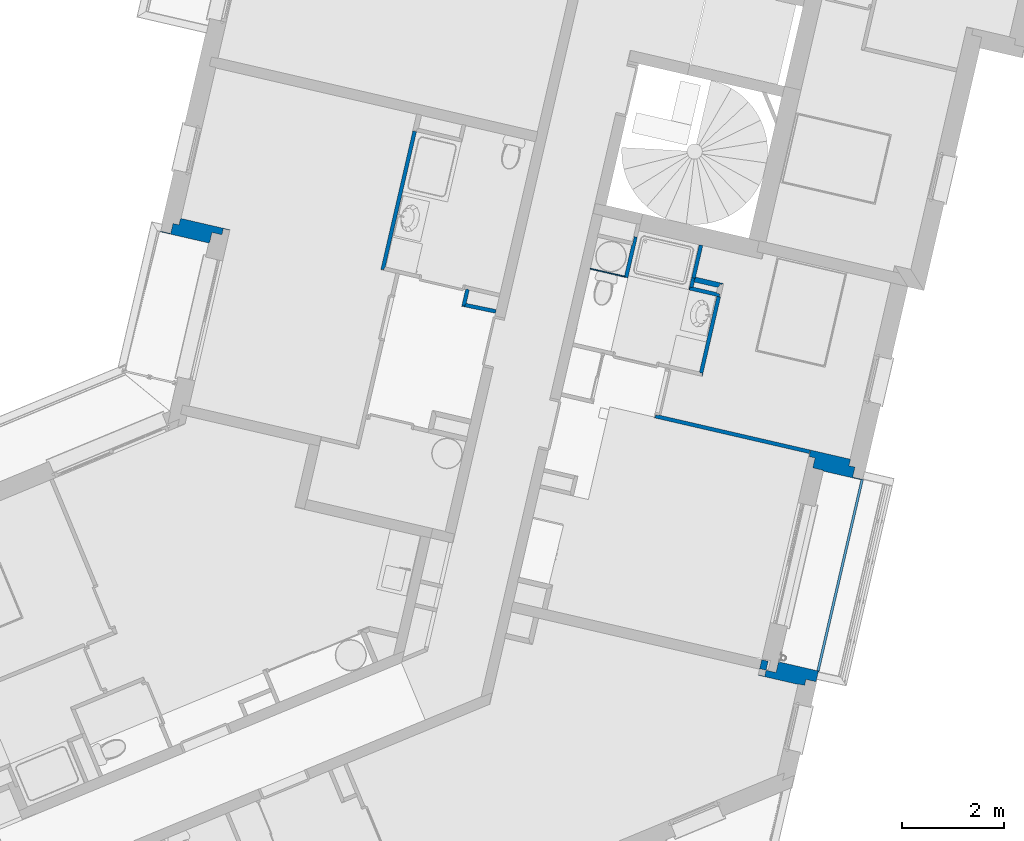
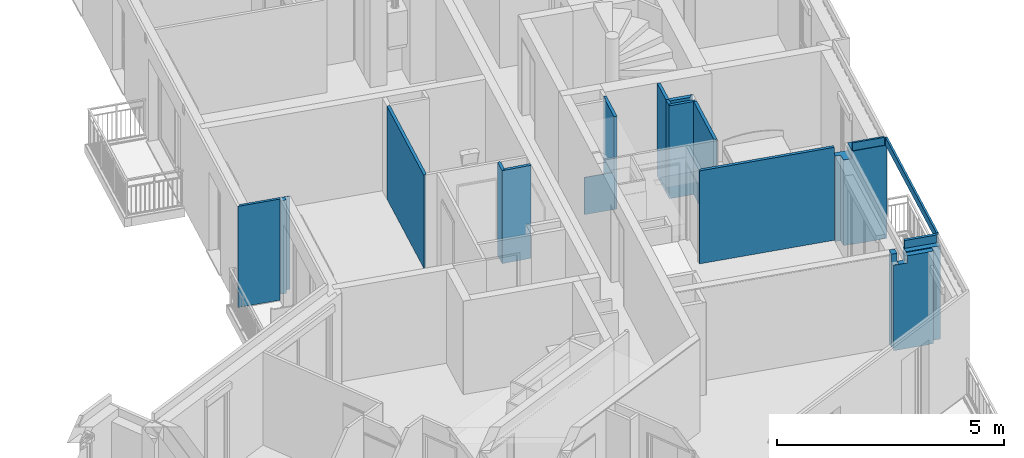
# One storey, part 41 of 91: 16 walls.
"""IFC2X3 building model written with IfcOpenShell, lengths in metres."""

from ifc_helpers import new_model, entity, si_unit, converted_unit, derived_unit, money_unit, direction, frame, origin_with_axes, place, context, subcontext, project, spatial, faceted_brep, material, material_list, type_object, element, save


model = new_model("IFC2X3")

# Units and contexts
model_context = context("Model", 3, precision=1e-05, world=origin_with_axes(), true_north=direction((0.0, 1.0)))
body_context = subcontext(model_context, "Body", "Model", "MODEL_VIEW")
ifc_project = project(units=[si_unit("LENGTHUNIT", "METRE"), si_unit("AREAUNIT", "SQUARE_METRE"), si_unit("VOLUMEUNIT", "CUBIC_METRE"), converted_unit("PLANEANGLEUNIT", "DEGREE", entity("IfcPlaneAngleMeasure", 0.0174532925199), si_unit("PLANEANGLEUNIT", "RADIAN"), dimensions=[0, 0, 0, 0, 0, 0, 0]), si_unit("SOLIDANGLEUNIT", "STERADIAN"), money_unit("EUR"), converted_unit("TIMEUNIT", "Year", entity("IfcTimeMeasure", 31556926.0), si_unit("TIMEUNIT", "SECOND"), dimensions=[0, 0, 1, 0, 0, 0, 0]), si_unit("MASSUNIT", "GRAM", prefix="KILO"), si_unit("THERMODYNAMICTEMPERATUREUNIT", "DEGREE_CELSIUS"), si_unit("LUMINOUSINTENSITYUNIT", "LUMEN"), si_unit("ENERGYUNIT", "JOULE", prefix="MEGA"), derived_unit("THERMALCONDUCTANCEUNIT", [(si_unit("POWERUNIT", "WATT"), 1), (si_unit("LENGTHUNIT", "METRE"), -1), (si_unit("THERMODYNAMICTEMPERATUREUNIT", "KELVIN"), -1)]), derived_unit("SPECIFICHEATCAPACITYUNIT", [(si_unit("ENERGYUNIT", "JOULE"), 1), (si_unit("MASSUNIT", "GRAM", prefix="KILO"), -1), (si_unit("THERMODYNAMICTEMPERATUREUNIT", "KELVIN"), -1)]), derived_unit("MASSDENSITYUNIT", [(si_unit("MASSUNIT", "GRAM", prefix="KILO"), 1), (si_unit("VOLUMEUNIT", "CUBIC_METRE"), -1)])], contexts=[model_context])

# Site, building, storey
site_placement = place(None, origin_with_axes())
site = spatial("IfcSite", under=ifc_project, at=site_placement, Name="Site", CompositionType="ELEMENT")
building_placement = place(site_placement, origin_with_axes())
building = spatial("IfcBuilding", under=site, at=building_placement, Name="Bâtiment", CompositionType="ELEMENT")
storey_placement = place(building_placement, frame((0.0, 0.0, 5.44), z_axis=(0.0, 0.0, 1.0), x_axis=(1.0, 0.0, 0.0)))
storey = spatial("IfcBuildingStorey", under=building, at=storey_placement, Name="R+2", CompositionType="ELEMENT", Elevation=5.44)

# Walls
ifc_material_1 = material(Name="Finition ext - Crépis")
ifc_material_2 = material(Name="Béton cellulaire")
ifc_material_3 = material(Name="Mortier")
ifc_material_4 = material(Name="Isolation - Polystyrène expansé")
ifc_material_5 = material(Name="Bloc ELITHERM")
ifc_material_6 = material(Name="Isolation - Polystyrène extrudé")
ifc_material_7 = material(Name="Finition int - Plaque de plâtre")
ifc_material_list_1 = material_list([ifc_material_1, ifc_material_2, ifc_material_3, ifc_material_4, ifc_material_5, ifc_material_6, ifc_material_7])
wall_type_1 = type_object("IfcWallType", Name="Mur ALKERN + planelle 21 345 x 2720", PredefinedType="USERDEFINED")
wall_1_placement = place(storey_placement, frame((-7.87725590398, -17.655550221, 0.0), z_axis=(0.0, 0.0, 1.0), x_axis=(0.974387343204, -0.224876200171, 0.0)))
element("IfcWall", 1, at=wall_1_placement, inside=storey, type_object=wall_type_1, material=ifc_material_list_1, Name="Mue bloc ALKERN isolé", ObjectType="SOLIDWALL", context=body_context, shape_type="Brep", body=[
    faceted_brep([(0.0, -1.97838829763e-08, 2.51000000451), (0.735096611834, -3.25334781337e-09, 2.50999999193), (0.735096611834, -3.62492258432e-09, 2.7199999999), (0.751999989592, -3.25334781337e-09, 2.72), (0.751999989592, -2.19820606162e-09, 2.51), (0.799999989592, -2.02848937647e-09, 2.51), (0.799999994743, 0.0, 0.0), (-1.75933374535e-08, 0.0, 0.0), (0.0, -0.015, 2.51000000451), (0.735096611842, -0.015, 2.50999999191), (0.735096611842, -0.015, 2.7199999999), (0.799999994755, -0.0149999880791, 2.72), (0.799999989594, -0.00238866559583, 2.72), (0.751999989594, -0.00238866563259, 2.72), (0.751999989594, -0.00238866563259, 2.51), (0.799999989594, -0.00238866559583, 2.51), (0.799999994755, -0.0149999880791, 0.0), (-1.76522387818e-08, -0.0149999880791, 0.0)], [[[0, 1, 2, 3, 4, 5, 6, 7]], [[1, 0, 8, 9]], [[10, 2, 1, 9]], [[2, 10, 11, 12, 13, 3]], [[4, 3, 13, 14]], [[14, 15, 5, 4]], [[15, 12, 11, 16, 6, 5]], [[16, 17, 7, 6]], [[8, 0, 7, 17]], [[9, 8, 17, 16, 11, 10]], [[14, 13, 12, 15]]]),
    faceted_brep([(0.785000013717, -0.0629999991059, 2.72), (0.785000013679, -0.015, 2.72), (0.0, -0.015, 2.71999999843), (0.0, -0.0629999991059, 2.71999999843), (0.785000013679, -0.015, 2.51999999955), (0.785000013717, -0.0629999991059, 2.51999999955), (0.0, -0.015, 2.51999999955), (0.0, -0.0629999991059, 2.51999999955)], [[[0, 1, 2, 3]], [[4, 1, 0, 5]], [[1, 4, 6, 2]], [[7, 3, 2, 6]], [[5, 0, 3, 7]], [[4, 5, 7, 6]]]),
    faceted_brep([(0.785000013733, -0.0830000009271, 2.51999999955), (0.785000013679, -0.015, 2.51999999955), (0.0, -0.015, 2.52), (0.0, -0.0830000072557, 2.51999998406), (0.785000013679, -0.015, 2.50999999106), (0.785000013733, -0.0830000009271, 2.50999999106), (0.0, -0.015, 2.51000000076), (0.0, -0.0830000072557, 2.51000000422)], [[[0, 1, 2, 3]], [[4, 1, 0, 5]], [[1, 4, 6, 2]], [[7, 3, 2, 6]], [[5, 0, 3, 7]], [[4, 5, 7, 6]]]),
    faceted_brep([(0.0, -0.0830000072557, 2.71999999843), (0.737000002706, -0.0830000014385, 2.72), (0.73700000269, -0.0630000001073, 2.72), (0.0, -0.0630000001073, 2.71999999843), (0.0, -0.0830000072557, 2.51999998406), (0.737000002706, -0.0830000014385, 2.51999999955), (0.73700000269, -0.0630000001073, 2.51999999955), (0.0, -0.0630000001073, 2.51999999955)], [[[0, 1, 2, 3]], [[4, 5, 1, 0]], [[5, 6, 2, 1]], [[3, 2, 6, 7]], [[7, 4, 0, 3]], [[7, 6, 5, 4]]]),
    faceted_brep([(0.785000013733, -0.0829999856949, 2.50999999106), (0.785000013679, -0.015, 2.50999999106), (-0.0149999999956, -0.015, 2.51000000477), (-0.0149999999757, -0.0829999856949, 2.51000000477), (0.785000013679, -0.015, 0.0), (0.785000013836, -0.214999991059, 2.50999999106), (0.785000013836, -0.214999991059, 0.0), (-0.0149999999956, -0.015, 0.0), (-0.0149999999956, -0.015, 2.3), (-0.0149999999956, -0.015, 2.30999999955), (-0.0149999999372, -0.214999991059, 2.30999999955), (-0.0149999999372, -0.214999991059, 2.51000000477), (-0.0149999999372, -0.214999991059, 2.3), (-0.0149999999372, -0.214999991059, 0.0)], [[[0, 1, 2, 3]], [[4, 1, 0, 5, 6]], [[1, 4, 7, 8, 9, 2]], [[3, 2, 9, 10, 11]], [[5, 0, 3, 11]], [[6, 5, 11, 10, 12, 13]], [[4, 6, 13, 7]], [[12, 8, 7, 13]], [[10, 9, 8, 12]]]),
    faceted_brep([(-0.0149999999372, -0.215000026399, 2.49), (0.585000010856, -0.215000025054, 2.49), (0.585000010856, -0.215000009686, 0.0), (-0.215000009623, -0.215000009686, 0.0), (-0.215000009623, -0.215000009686, 2.3), (-0.0829999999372, -0.215000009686, 2.3), (-0.0149999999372, -0.215000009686, 2.3), (0.58500001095, -0.335000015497, 2.49), (-0.0149999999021, -0.335000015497, 2.49), (0.58500001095, -0.335000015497, 0.0), (-0.215000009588, -0.335000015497, 0.0), (-0.215000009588, -0.335000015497, 2.3), (-0.0829999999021, -0.335000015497, 2.3), (-0.0149999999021, -0.335000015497, 2.3)], [[[0, 1, 2, 3, 4, 5, 6]], [[7, 1, 0, 8]], [[1, 7, 9, 2]], [[3, 2, 9, 10]], [[10, 11, 4, 3]], [[11, 12, 5, 4]], [[13, 6, 5, 12]], [[8, 0, 6, 13]], [[7, 8, 13, 12, 11, 10, 9]]]),
    faceted_brep([(-0.0149999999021, -0.335000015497, 2.49), (0.464999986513, -0.335000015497, 2.49), (0.464999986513, -0.335000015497, 0.0), (-0.335000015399, -0.335000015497, 0.0), (-0.335000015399, -0.335000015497, 2.3), (-0.0829999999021, -0.335000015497, 2.3), (-0.0149999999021, -0.335000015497, 2.3), (0.46499998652, -0.344999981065, 2.49), (-0.0149999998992, -0.344999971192, 2.49), (0.46499998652, -0.34499998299, 0.0), (-0.335000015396, -0.344999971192, 0.0), (-0.335000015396, -0.344999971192, 2.3), (-0.0829999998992, -0.344999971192, 2.3), (-0.0149999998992, -0.344999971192, 2.3)], [[[0, 1, 2, 3, 4, 5, 6]], [[7, 1, 0, 8]], [[1, 7, 9, 2]], [[3, 2, 9, 10]], [[10, 11, 4, 3]], [[11, 12, 5, 4]], [[13, 6, 5, 12]], [[8, 0, 6, 13]], [[7, 8, 13, 12, 11, 10, 9]]]),
])
ifc_material_list_2 = material_list([ifc_material_1, ifc_material_2, ifc_material_3, ifc_material_5, ifc_material_6, ifc_material_7])
wall_2_placement = place(storey_placement, frame((-6.23759285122, -14.1084121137, 0.0), z_axis=(0.0, 0.0, 1.0), x_axis=(-0.974387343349, 0.224876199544, 0.0)))
element("IfcWall", 2, at=wall_2_placement, inside=storey, type_object=wall_type_1, material=ifc_material_list_2, Name="Mue bloc ALKERN isolé", ObjectType="SOLIDWALL", context=body_context, shape_type="Brep", body=[
    faceted_brep([(0.79999998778, -0.0149999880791, 2.51), (0.0649033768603, -0.0149999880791, 2.51), (0.0649033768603, -0.0149999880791, 2.72), (0.0480000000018, -0.0149999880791, 2.71999999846), (0.0480000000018, -0.0149999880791, 2.51000000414), (0.0149999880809, -0.0149999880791, 2.51000000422), (0.0149999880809, -0.0149999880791, 0.0), (0.814999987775, -0.0149999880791, 0.0), (0.814999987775, -0.0149999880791, 2.51000000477), (0.79999998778, -1.97838829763e-08, 2.51), (0.064903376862, 0.0, 2.51), (0.064903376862, -3.62492080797e-09, 2.72), (0.048, -3.25334958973e-09, 2.71999999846), (0.048, 0.0, 2.51000000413), (0.0149999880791, 0.0, 2.51000000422), (0.0149999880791, 0.0, 0.0), (0.81499998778, 0.0, 0.0), (0.81499998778, -1.97838847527e-08, 2.51000000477)], [[[0, 1, 2, 3, 4, 5, 6, 7, 8]], [[1, 0, 9, 10]], [[11, 2, 1, 10]], [[2, 11, 12, 3]], [[4, 3, 12, 13]], [[13, 14, 5, 4]], [[6, 5, 14, 15]], [[15, 16, 7, 6]], [[16, 17, 8, 7]], [[9, 0, 8, 17]], [[10, 9, 17, 16, 15, 14, 13, 12, 11]]]),
    faceted_brep([(0.0629999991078, -0.015, 2.72), (0.0629999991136, -0.0629999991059, 2.72), (0.79999998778, -0.0629999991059, 2.71999999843), (0.79999998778, -0.015, 2.71999999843), (0.0629999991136, -0.0629999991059, 2.51999999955), (0.0629999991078, -0.015, 2.51999999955), (0.79999998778, -0.0629999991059, 2.51999999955), (0.79999998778, -0.015, 2.51999999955)], [[[0, 1, 2, 3]], [[4, 1, 0, 5]], [[1, 4, 6, 2]], [[7, 3, 2, 6]], [[5, 0, 3, 7]], [[4, 5, 7, 6]]]),
    faceted_brep([(0.0830000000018, -0.015, 2.52), (0.0830000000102, -0.0830000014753, 2.52), (0.79999998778, -0.0830000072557, 2.51999998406), (0.79999998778, -0.015, 2.52), (0.0830000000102, -0.0830000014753, 2.51), (0.0830000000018, -0.015, 2.51), (0.79999998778, -0.0830000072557, 2.51000000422), (0.79999998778, -0.015, 2.51000000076)], [[[0, 1, 2, 3]], [[4, 1, 0, 5]], [[1, 4, 6, 2]], [[7, 3, 2, 6]], [[5, 0, 3, 7]], [[4, 5, 7, 6]]]),
    faceted_brep([(0.814999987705, -0.214999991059, 2.30999999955), (0.814999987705, -0.214999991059, 2.51000000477), (0.214999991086, -0.214999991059, 2.50999999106), (0.214999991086, -0.214999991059, 0.0), (1.01499999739, -0.214999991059, 0.0), (1.01499999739, -0.214999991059, 2.3), (0.882999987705, -0.214999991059, 2.3), (0.814999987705, -0.214999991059, 2.3), (0.814999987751, -0.0829999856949, 2.51000000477), (0.814999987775, -0.015, 2.30999999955), (0.814999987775, -0.015, 2.51000000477), (0.214999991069, -0.0829999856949, 2.50999999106), (0.214999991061, -0.015, 2.50999999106), (0.214999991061, -0.015, 0.0), (1.01499999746, -0.015, 0.0), (1.01499999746, -0.015, 2.3), (0.882999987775, -0.015, 2.3), (0.814999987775, -0.015, 2.3)], [[[0, 1, 2, 3, 4, 5, 6, 7]], [[8, 1, 0, 9, 10]], [[1, 8, 11, 2]], [[3, 2, 11, 12, 13]], [[14, 4, 3, 13]], [[15, 5, 4, 14]], [[16, 6, 5, 15]], [[7, 6, 16, 17]], [[9, 0, 7, 17]], [[10, 9, 17, 16, 15, 14, 13, 12]], [[8, 10, 12, 11]]]),
    faceted_brep([(0.814999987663, -0.335000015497, 2.3), (0.814999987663, -0.335000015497, 2.51000000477), (0.335000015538, -0.335000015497, 2.51), (0.335000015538, -0.335000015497, 0.0), (1.13500000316, -0.335000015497, 0.0), (1.13500000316, -0.335000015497, 2.3), (0.882999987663, -0.335000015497, 2.3), (0.814999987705, -0.215000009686, 2.3), (0.814999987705, -0.215000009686, 2.51000000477), (0.335000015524, -0.215000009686, 2.51), (0.335000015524, -0.215000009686, 0.0), (1.1350000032, -0.215000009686, 0.0), (1.1350000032, -0.215000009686, 2.3), (0.882999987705, -0.215000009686, 2.3)], [[[0, 1, 2, 3, 4, 5, 6]], [[7, 8, 1, 0]], [[2, 1, 8, 9]], [[10, 3, 2, 9]], [[10, 11, 4, 3]], [[11, 12, 5, 4]], [[12, 13, 6, 5]], [[7, 0, 6, 13]], [[9, 8, 7, 13, 12, 11, 10]]]),
    faceted_brep([(0.814999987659, -0.344999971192, 2.3), (0.814999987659, -0.344999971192, 2.51000000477), (0.344999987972, -0.34499998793, 2.51), (0.344999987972, -0.34499998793, 0.0), (1.14499995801, -0.34499998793, 0.0), (1.14499995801, -0.34499998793, 2.30000001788), (0.882999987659, -0.344999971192, 2.3), (0.814999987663, -0.335000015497, 2.3), (0.814999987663, -0.335000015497, 2.51000000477), (0.344999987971, -0.335000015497, 2.51), (0.344999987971, -0.335000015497, 0.0), (1.14499995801, -0.335000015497, 0.0), (1.14499995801, -0.335000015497, 2.30000001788), (0.882999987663, -0.335000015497, 2.3)], [[[0, 1, 2, 3, 4, 5, 6]], [[7, 8, 1, 0]], [[2, 1, 8, 9]], [[10, 3, 2, 9]], [[4, 3, 10, 11]], [[11, 12, 5, 4]], [[12, 13, 6, 5]], [[7, 0, 6, 13]], [[9, 8, 7, 13, 12, 11, 10]]]),
])
wall_3_placement = place(storey_placement, frame((-19.0200334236, -9.47366806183, 0.0), z_axis=(0.0, 0.0, 1.0), x_axis=(-0.974387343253, 0.22487619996, 0.0)))
element("IfcWall", 3, at=wall_3_placement, inside=storey, type_object=wall_type_1, material=ifc_material_list_2, Name="Mue bloc ALKERN isolé", ObjectType="SOLIDWALL", context=body_context, shape_type="Brep", body=[
    faceted_brep([(0.965018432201, -0.0149999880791, 2.72), (0.0, -0.0149999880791, 2.72), (0.0, -0.0149999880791, 0.0), (0.965018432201, -0.0149999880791, 0.0), (0.9650184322, 0.0, 2.72), (0.0, 0.0, 2.72), (0.0, 0.0, 0.0), (0.9650184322, 0.0, 0.0)], [[[0, 1, 2, 3]], [[1, 0, 4, 5]], [[2, 1, 5, 6]], [[6, 7, 3, 2]], [[7, 4, 0, 3]], [[5, 4, 7, 6]]]),
    faceted_brep([(0.917018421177, -0.0629999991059, 2.51999999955), (0.917018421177, -0.0629999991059, 2.72), (-0.0150000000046, -0.0629999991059, 2.72), (-0.0150000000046, -0.0629999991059, 2.51999999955), (0.917018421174, -0.015, 2.72), (0.917018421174, -0.015, 2.51999999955), (-0.0150000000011, -0.015, 2.72), (-0.0150000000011, -0.015, 2.51999999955)], [[[0, 1, 2, 3]], [[4, 1, 0, 5]], [[1, 4, 6, 2]], [[3, 2, 6, 7]], [[5, 0, 3, 7]], [[4, 5, 7, 6]]]),
    faceted_brep([(0.897018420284, -0.083, 2.51), (0.897018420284, -0.083, 2.52), (-0.015000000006, -0.083, 2.52), (-0.015000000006, -0.083, 2.51), (0.89701842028, -0.015, 2.52), (0.89701842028, -0.015, 2.51), (-0.0150000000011, -0.015, 2.52), (-0.0150000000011, -0.015, 2.51)], [[[0, 1, 2, 3]], [[4, 1, 0, 5]], [[1, 4, 6, 2]], [[3, 2, 6, 7]], [[5, 0, 3, 7]], [[4, 5, 7, 6]]]),
    faceted_brep([(0.765018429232, -0.214999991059, 0.0), (0.765018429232, -0.214999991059, 2.50999999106), (-0.0150000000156, -0.214999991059, 2.50999999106), (-0.0150000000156, -0.214999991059, 0.0), (0.765018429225, -0.0829999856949, 2.50999999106), (0.765018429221, -0.015, 0.0), (0.765018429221, -0.015, 2.50999999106), (-0.015000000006, -0.0829999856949, 2.50999999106), (-0.0150000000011, -0.015, 2.50999999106), (-0.0150000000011, -0.015, 0.0)], [[[0, 1, 2, 3]], [[4, 1, 0, 5, 6]], [[1, 4, 7, 2]], [[3, 2, 7, 8, 9]], [[5, 0, 3, 9]], [[6, 5, 9, 8]], [[4, 6, 8, 7]]]),
    faceted_brep([(-0.21500000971, -0.335000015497, 0.0), (0.645018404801, -0.335000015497, 0.0), (0.645018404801, -0.335000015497, 2.51), (-0.21500000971, -0.335000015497, 2.51), (-0.215000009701, -0.215000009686, 0.0), (0.645018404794, -0.215000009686, 0.0), (0.645018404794, -0.215000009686, 2.51), (-0.215000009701, -0.215000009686, 2.51)], [[[0, 1, 2, 3]], [[4, 5, 1, 0]], [[5, 6, 2, 1]], [[3, 2, 6, 7]], [[4, 0, 3, 7]], [[7, 6, 5, 4]]]),
    faceted_brep([(-0.335000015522, -0.34499998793, 0.0), (0.635018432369, -0.34499998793, 0.0), (0.635018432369, -0.34499998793, 2.51), (-0.335000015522, -0.34499998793, 2.51), (-0.335000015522, -0.335000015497, 0.0), (0.635018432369, -0.335000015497, 0.0), (0.635018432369, -0.335000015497, 2.51), (-0.335000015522, -0.335000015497, 2.51)], [[[0, 1, 2, 3]], [[4, 5, 1, 0]], [[5, 6, 2, 1]], [[3, 2, 6, 7]], [[4, 0, 3, 7]], [[7, 6, 5, 4]]]),
])
ifc_material_8 = material(Name="Isolation - Laine de roche")
ifc_material_list_3 = material_list([ifc_material_7, ifc_material_8, ifc_material_7])
wall_type_2 = type_object("IfcWallType", Name="3 - Cloison 72mm Placostil 74", PredefinedType="USERDEFINED")
wall_4_placement = place(storey_placement, frame((-10.6895078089, -9.53207011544, 0.0), z_axis=(0.0, 0.0, 1.0), x_axis=(-0.224876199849, -0.974387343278, 0.0)))
element("IfcWall", 4, at=wall_4_placement, inside=storey, type_object=wall_type_2, material=ifc_material_list_3, Name="Cloison Placostil 72/48", ObjectType="PARTITIONING", context=body_context, shape_type="Brep", body=[
    faceted_brep([(-0.174, 0.0, 2.5), (-0.174, -0.013, 2.5), (0.63958884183, -0.0130000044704, 2.5), (0.63958884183, 4.47035120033e-09, 2.5), (-0.174, 0.0, 0.0), (-0.174, -0.013, 0.0), (0.63958884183, -0.013, 0.0), (0.63958884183, 0.0, 0.0), (0.63958884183, 4.47035120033e-09, 1.0)], [[[0, 1, 2, 3]], [[0, 4, 5, 1]], [[5, 6, 2, 1]], [[6, 7, 8, 3, 2]], [[4, 0, 3, 8, 7]], [[5, 4, 7, 6]]]),
    faceted_brep([(-0.174, -0.013, 2.5), (-0.174, -0.061, 2.5), (0.63958884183, -0.0609999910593, 2.5), (0.63958884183, -0.0130000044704, 2.5), (-0.174, -0.013, 0.0), (-0.174, -0.061, 0.0), (0.63958884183, -0.061, 0.0), (0.63958884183, -0.013, 0.0)], [[[0, 1, 2, 3]], [[0, 4, 5, 1]], [[5, 6, 2, 1]], [[6, 7, 3, 2]], [[4, 0, 3, 7]], [[5, 4, 7, 6]]]),
    faceted_brep([(0.63958884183, -0.0609999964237, 1.0), (0.61958884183, -0.0609999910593, 1.0), (0.61958884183, -0.061, 0.0), (0.0, -0.061, 0.0), (0.0, -0.0609999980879, 2.5), (0.63958884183, -0.0609999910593, 2.5), (0.61958884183, -0.074, 1.0), (0.63958884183, -0.074, 1.0), (0.61958884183, -0.074, 0.0), (0.0, -0.074, 0.0), (0.0, -0.074, 2.5), (0.63958884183, -0.074, 2.5)], [[[0, 1, 2, 3, 4, 5]], [[6, 1, 0, 7]], [[8, 2, 1, 6]], [[3, 2, 8, 9]], [[9, 10, 4, 3]], [[5, 4, 10, 11]], [[11, 7, 0, 5]], [[8, 6, 7, 11, 10, 9]]]),
])
wall_5_placement = place(storey_placement, frame((-13.9871825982, -10.3067745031, 0.0), z_axis=(0.0, 0.0, 1.0), x_axis=(-0.224876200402, -0.974387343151, 0.0)))
element("IfcWall", 5, at=wall_5_placement, inside=storey, type_object=wall_type_2, material=ifc_material_list_3, Name="Cloison Placostil 72/48", ObjectType="PARTITIONING", context=body_context, shape_type="Brep", body=[
    faceted_brep([(0.350338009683, 0.074, 0.0), (0.350627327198, 0.061, 0.0), (0.0739999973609, 0.061, 0.0), (0.0739999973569, 0.074, 0.0), (0.350338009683, 0.074, 2.5), (0.350627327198, 0.061, 2.5), (0.0739999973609, 0.061, 2.5), (0.0739999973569, 0.074, 2.5)], [[[0, 1, 2, 3]], [[1, 0, 4, 5]], [[1, 5, 6, 2]], [[7, 3, 2, 6]], [[4, 0, 3, 7]], [[5, 4, 7, 6]]]),
    faceted_brep([(0.398639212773, 0.061, 0.0), (0.39970746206, 0.013, 0.0), (0.0609999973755, 0.013, 0.0), (0.0609999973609, 0.061, 0.0), (0.398639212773, 0.061, 2.5), (0.39970746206, 0.013, 2.5), (0.0609999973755, 0.013, 2.5), (0.0609999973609, 0.061, 2.5)], [[[0, 1, 2, 3]], [[1, 0, 4, 5]], [[1, 5, 6, 2]], [[7, 3, 2, 6]], [[4, 0, 3, 7]], [[5, 4, 7, 6]]]),
    faceted_brep([(0.41271068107, 0.013, 0.0), (0.412999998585, 0.0, 0.0), (0.0739999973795, 0.0, 0.0), (0.0739999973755, 0.013, 0.0), (0.41271068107, 0.013, 2.5), (0.412999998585, 0.0, 2.5), (0.0739999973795, 0.0, 2.5), (0.0739999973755, 0.013, 2.5)], [[[0, 1, 2, 3]], [[1, 0, 4, 5]], [[1, 5, 6, 2]], [[7, 3, 2, 6]], [[4, 0, 3, 7]], [[5, 4, 7, 6]]]),
])
wall_6_placement = place(storey_placement, frame((-9.0941462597, -10.5037153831, 0.0), z_axis=(0.0, 0.0, 1.0), x_axis=(-0.224876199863, -0.974387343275, 0.0)))
element("IfcWall", 6, at=wall_6_placement, inside=storey, type_object=wall_type_2, material=ifc_material_list_3, Name="Cloison Placostil 72/48", ObjectType="PARTITIONING", context=body_context, shape_type="Brep", body=[
    faceted_brep([(1.58716609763, 0.074, 0.0), (1.58716609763, 0.061, 0.0), (0.0, 0.061, 0.0), (0.0, 0.074, 0.0), (1.58716609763, 0.074, 2.5), (1.58716609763, 0.061, 2.5), (0.0, 0.061, 2.5), (0.0, 0.074, 2.5)], [[[0, 1, 2, 3]], [[1, 0, 4, 5]], [[1, 5, 6, 2]], [[7, 3, 2, 6]], [[4, 0, 3, 7]], [[5, 4, 7, 6]]]),
    faceted_brep([(1.53916609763, 0.061, 0.0), (1.53916609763, 0.013, 0.0), (0.0, 0.013, 0.0), (0.0, 0.061, 0.0), (1.53916609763, 0.061, 2.5), (1.53916609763, 0.013, 2.5), (0.0, 0.013, 2.5), (0.0, 0.061, 2.5)], [[[0, 1, 2, 3]], [[1, 0, 4, 5]], [[1, 5, 6, 2]], [[7, 3, 2, 6]], [[4, 0, 3, 7]], [[5, 4, 7, 6]]]),
    faceted_brep([(1.52616609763, 0.013, 0.0), (1.52616609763, 0.0, 0.0), (0.0, 0.0, 0.0), (0.0, 0.013, 0.0), (1.52616609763, 0.013, 2.5), (1.52616609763, 0.0, 2.5), (0.0, 0.0, 2.5), (0.0, 0.013, 2.5)], [[[0, 1, 2, 3]], [[1, 0, 4, 5]], [[1, 5, 6, 2]], [[7, 3, 2, 6]], [[4, 0, 3, 7]], [[5, 4, 7, 6]]]),
])
wall_7_placement = place(storey_placement, frame((-9.44213676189, -9.50795656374, 0.0), z_axis=(0.0, 0.0, 1.0), x_axis=(-0.224876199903, -0.974387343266, 0.0)))
element("IfcWall", 7, at=wall_7_placement, inside=storey, type_object=wall_type_2, material=ifc_material_list_3, Name="Cloison Placostil 72/48", ObjectType="PARTITIONING", context=body_context, shape_type="Brep", body=[
    faceted_brep([(0.0, 0.074, 0.0), (0.65700000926, 0.074, 0.0), (0.65700000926, 0.061, 0.0), (0.0, 0.061, 0.0), (0.0, 0.074, 2.5), (0.65700000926, 0.074, 2.5), (0.65700000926, 0.061, 2.5), (0.0, 0.061, 2.5)], [[[0, 1, 2, 3]], [[4, 5, 1, 0]], [[2, 1, 5, 6]], [[3, 2, 6, 7]], [[4, 0, 3, 7]], [[7, 6, 5, 4]]]),
    faceted_brep([(0.0, 0.061, 0.0), (0.65700000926, 0.061, 0.0), (0.65700000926, 0.013, 0.0), (0.0, 0.013, 0.0), (0.0, 0.061, 2.5), (0.65700000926, 0.061, 2.5), (0.65700000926, 0.013, 2.5), (0.0, 0.013, 2.5)], [[[0, 1, 2, 3]], [[4, 5, 1, 0]], [[2, 1, 5, 6]], [[3, 2, 6, 7]], [[4, 0, 3, 7]], [[7, 6, 5, 4]]]),
    faceted_brep([(0.0, 0.013, 0.0), (0.65700000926, 0.013, 0.0), (0.65700000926, 0.0, 0.0), (0.0, 0.0, 0.0), (0.0, 0.013, 2.5), (0.65700000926, 0.013, 2.5), (0.65700000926, 0.0, 2.5), (0.0, 0.0, 2.5)], [[[0, 1, 2, 3]], [[4, 5, 1, 0]], [[2, 1, 5, 6]], [[3, 2, 6, 7]], [[4, 0, 3, 7]], [[7, 6, 5, 4]]]),
])
wall_8_placement = place(storey_placement, frame((-7.29232488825, -13.5868699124, 0.0), z_axis=(0.0, 0.0, 1.0), x_axis=(-0.974387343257, 0.224876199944, 0.0)))
element("IfcWall", 8, at=wall_8_placement, inside=storey, type_object=wall_type_2, material=ifc_material_list_3, Name="Cloison Placostil 72/48", ObjectType="PARTITIONING", context=body_context, shape_type="Brep", body=[
    faceted_brep([(3.1070000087, -0.013, 2.5), (3.1070000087, 0.0, 2.5), (0.0, 0.0, 2.5), (0.0, -0.013, 2.5), (3.1070000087, -0.013, 0.0), (3.1070000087, 0.0, 0.0), (0.0, 0.0, 0.0), (0.0, -0.013, 0.0)], [[[0, 1, 2, 3]], [[1, 0, 4, 5]], [[1, 5, 6, 2]], [[7, 3, 2, 6]], [[4, 0, 3, 7]], [[5, 4, 7, 6]]]),
    faceted_brep([(3.09400000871, -0.061, 2.5), (3.0940000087, -0.013, 2.5), (0.0, -0.013, 2.5), (0.0, -0.061, 2.5), (3.09400000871, -0.061, 0.0), (3.0940000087, -0.013, 0.0), (0.0, -0.013, 0.0), (0.0, -0.061, 0.0)], [[[0, 1, 2, 3]], [[1, 0, 4, 5]], [[1, 5, 6, 2]], [[7, 3, 2, 6]], [[4, 0, 3, 7]], [[5, 4, 7, 6]]]),
    faceted_brep([(3.04600000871, -0.074, 2.5), (3.04600000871, -0.061, 2.5), (0.0, -0.061, 2.5), (0.0, -0.074, 2.5), (3.04600000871, -0.074, 0.0), (3.04600000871, -0.061, 0.0), (0.0, -0.061, 0.0), (0.0, -0.074, 0.0)], [[[0, 1, 2, 3]], [[1, 0, 4, 5]], [[1, 5, 6, 2]], [[7, 3, 2, 6]], [[4, 0, 3, 7]], [[5, 4, 7, 6]]]),
])
wall_9_placement = place(storey_placement, frame((-14.9622417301, -7.30105524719, 0.0), z_axis=(0.0, 0.0, 1.0), x_axis=(-0.224876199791, -0.974387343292, 0.0)))
element("IfcWall", 9, at=wall_9_placement, inside=storey, type_object=wall_type_2, material=ifc_material_list_3, Name="Cloison Placostil 72/48", ObjectType="PARTITIONING", context=body_context, shape_type="Brep", body=[
    faceted_brep([(2.72246720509, -0.013, 2.5), (2.7224672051, 0.0, 2.5), (0.0, 0.0, 2.5), (0.0, -0.013, 2.5), (2.72246720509, -0.013, 0.0), (2.7224672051, 0.0, 0.0), (0.0, 0.0, 0.0), (0.0, -0.013, 0.0)], [[[0, 1, 2, 3]], [[1, 0, 4, 5]], [[1, 5, 6, 2]], [[7, 3, 2, 6]], [[4, 0, 3, 7]], [[5, 4, 7, 6]]]),
    faceted_brep([(2.77046720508, -0.061, 2.5), (2.77046720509, -0.013, 2.5), (0.0, -0.013, 2.5), (0.0, -0.061, 2.5), (2.77046720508, -0.061, 0.0), (2.77046720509, -0.013, 0.0), (0.0, -0.013, 0.0), (0.0, -0.061, 0.0)], [[[0, 1, 2, 3]], [[1, 0, 4, 5]], [[1, 5, 6, 2]], [[7, 3, 2, 6]], [[4, 0, 3, 7]], [[5, 4, 7, 6]]]),
    faceted_brep([(2.78346720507, -0.074, 2.5), (2.78346720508, -0.061, 2.5), (0.0, -0.061, 2.5), (0.0, -0.074, 2.5), (2.78346720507, -0.074, 0.0), (2.78346720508, -0.061, 0.0), (0.0, -0.061, 0.0), (0.0, -0.074, 0.0)], [[[0, 1, 2, 3]], [[1, 0, 4, 5]], [[1, 5, 6, 2]], [[7, 3, 2, 6]], [[4, 0, 3, 7]], [[5, 4, 7, 6]]]),
])
wall_10_placement = place(storey_placement, frame((-14.0800564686, -10.7091964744, 0.0), z_axis=(0.0, 0.0, 1.0), x_axis=(0.979149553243, -0.203140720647, 0.0)))
element("IfcWall", 10, at=wall_10_placement, inside=storey, type_object=wall_type_2, material=ifc_material_list_3, Name="Cloison Placostil 72/48", ObjectType="PARTITIONING", context=body_context, shape_type="Brep", body=[
    faceted_brep([(0.0756652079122, 0.074, 0.0), (0.674166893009, 0.074, 0.0), (0.674166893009, 0.061, 0.0), (0.0753758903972, 0.061, 0.0), (0.0756652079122, 0.074, 2.5), (0.674166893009, 0.074, 2.5), (0.674166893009, 0.061, 2.5), (0.0753758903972, 0.061, 2.5)], [[[0, 1, 2, 3]], [[4, 5, 1, 0]], [[2, 1, 5, 6]], [[3, 2, 6, 7]], [[4, 0, 3, 7]], [[7, 6, 5, 4]]]),
    faceted_brep([(0.0623726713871, 0.061, 0.0), (0.674166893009, 0.061, 0.0), (0.674166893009, 0.013, 0.0), (0.0613044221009, 0.013, 0.0), (0.0623726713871, 0.061, 2.5), (0.674166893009, 0.061, 2.5), (0.674166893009, 0.013, 2.5), (0.0613044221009, 0.013, 2.5)], [[[0, 1, 2, 3]], [[4, 5, 1, 0]], [[2, 1, 5, 6]], [[3, 2, 6, 7]], [[4, 0, 3, 7]], [[7, 6, 5, 4]]]),
    faceted_brep([(0.0132925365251, 0.013, 0.0), (0.674166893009, 0.013, 0.0), (0.674166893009, 0.0, 0.0), (0.0130032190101, 0.0, 0.0), (0.0132925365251, 0.013, 2.5), (0.674166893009, 0.013, 2.5), (0.674166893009, 0.0, 2.5), (0.0130032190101, 0.0, 2.5)], [[[0, 1, 2, 3]], [[4, 5, 1, 0]], [[2, 1, 5, 6]], [[3, 2, 6, 7]], [[4, 0, 3, 7]], [[7, 6, 5, 4]]]),
])
wall_type_3 = type_object("IfcWallType", Name="3 - Cloison Gaine Technique 72mm 74", PredefinedType="USERDEFINED")
wall_11_placement = place(storey_placement, frame((-9.58988042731, -10.1481290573, 0.0), z_axis=(0.0, 0.0, 1.0), x_axis=(-0.224876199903, -0.974387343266, 0.0)))
element("IfcWall", 11, at=wall_11_placement, inside=storey, type_object=wall_type_3, material=ifc_material_list_3, Name="Cloison Placostil 72/48", ObjectType="PARTITIONING", context=body_context, shape_type="Brep", body=[
    faceted_brep([(0.173999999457, 0.074, 0.0), (0.173999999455, 0.061, 0.0), (0.0610000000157, 0.061, 0.0), (0.0610000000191, 0.074, 0.0), (0.173999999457, 0.074, 2.5), (0.173999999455, 0.061, 2.5), (0.0610000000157, 0.061, 2.5), (0.0610000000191, 0.074, 2.5)], [[[0, 1, 2, 3]], [[1, 0, 4, 5]], [[1, 5, 6, 2]], [[7, 3, 2, 6]], [[4, 0, 3, 7]], [[5, 4, 7, 6]]]),
    faceted_brep([(0.186999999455, 0.061, 0.0), (0.186999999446, 0.013, 0.0), (0.0, 0.013, 0.0), (0.0, 0.061, 0.0), (0.186999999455, 0.061, 2.5), (0.186999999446, 0.013, 2.5), (0.0, 0.013, 2.5), (0.0, 0.061, 2.5)], [[[0, 1, 2, 3]], [[1, 0, 4, 5]], [[1, 5, 6, 2]], [[7, 3, 2, 6]], [[4, 0, 3, 7]], [[5, 4, 7, 6]]]),
    faceted_brep([(0.234999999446, 0.013, 0.0), (0.234999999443, 0.0, 0.0), (0.0, 0.0, 0.0), (0.0, 0.013, 0.0), (0.234999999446, 0.013, 2.5), (0.234999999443, 0.0, 2.5), (0.0, 0.0, 2.5), (0.0, 0.013, 2.5)], [[[0, 1, 2, 3]], [[1, 0, 4, 5]], [[1, 5, 6, 2]], [[7, 3, 2, 6]], [[4, 0, 3, 7]], [[5, 4, 7, 6]]]),
])
wall_12_placement = place(storey_placement, frame((-9.64564972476, -10.3897771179, 0.0), z_axis=(0.0, 0.0, 1.0), x_axis=(0.974387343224, -0.224876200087, 0.0)))
element("IfcWall", 12, at=wall_12_placement, inside=storey, type_object=wall_type_3, material=ifc_material_list_3, Name="Cloison Placostil 72/48", ObjectType="PARTITIONING", context=body_context, shape_type="Brep", body=[
    faceted_brep([(0.550000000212, 0.074, 0.0), (0.550000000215, 0.061, 0.0), (0.0609999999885, 0.061, 0.0), (0.0609999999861, 0.074, 0.0), (0.550000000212, 0.074, 2.5), (0.550000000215, 0.061, 2.5), (0.0609999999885, 0.061, 2.5), (0.0609999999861, 0.074, 2.5)], [[[0, 1, 2, 3]], [[1, 0, 4, 5]], [[1, 5, 6, 2]], [[7, 3, 2, 6]], [[4, 0, 3, 7]], [[5, 4, 7, 6]]]),
    faceted_brep([(0.611000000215, 0.061, 0.0), (0.611000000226, 0.013, 0.0), (0.0129999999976, 0.013, 0.0), (0.0129999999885, 0.061, 0.0), (0.611000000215, 0.061, 2.5), (0.611000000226, 0.013, 2.5), (0.0129999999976, 0.013, 2.5), (0.0129999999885, 0.061, 2.5)], [[[0, 1, 2, 3]], [[1, 0, 4, 5]], [[1, 5, 6, 2]], [[7, 3, 2, 6]], [[4, 0, 3, 7]], [[5, 4, 7, 6]]]),
    faceted_brep([(0.624000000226, 0.013, 0.0), (0.624000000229, 0.0, 0.0), (0.0, 0.0, 0.0), (0.0, 0.013, 0.0), (0.624000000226, 0.013, 2.5), (0.624000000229, 0.0, 2.5), (0.0, 0.0, 2.5), (0.0, 0.013, 2.5)], [[[0, 1, 2, 3]], [[1, 0, 4, 5]], [[1, 5, 6, 2]], [[7, 3, 2, 6]], [[4, 0, 3, 7]], [[5, 4, 7, 6]]]),
])
ifc_material_9 = material(Name="Béton")
wall_type_4 = type_object("IfcWallType", Name="Béton 180", PredefinedType="USERDEFINED")
wall_13_placement = place(storey_placement, frame((-8.13509757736, -17.8166951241, 0.0), z_axis=(0.0, 0.0, 1.0), x_axis=(-0.974387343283, 0.224876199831, 0.0)))
element("IfcWall", 13, at=wall_13_placement, inside=storey, type_object=wall_type_4, material=ifc_material_9, Name="M_Ext-009", ObjectType="SOLIDWALL", context=body_context, shape_type="Brep", body=[
    faceted_brep([(0.0, 0.0, 2.51), (0.0, -0.18, 2.51), (0.129999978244, -0.18, 2.51), (0.129999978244, 0.0, 2.51), (0.0, 0.0, 0.0), (0.0, -0.18, 0.0), (0.129999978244, -0.18, 0.0), (0.129999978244, 0.0, 0.0)], [[[0, 1, 2, 3]], [[4, 5, 1, 0]], [[1, 5, 6, 2]], [[7, 3, 2, 6]], [[4, 0, 3, 7]], [[5, 4, 7, 6]]]),
])
ifc_material_list_4 = material_list([ifc_material_7, ifc_material_7, ifc_material_8, ifc_material_7, ifc_material_7])
wall_type_5 = type_object("IfcWallType", Name="3 - Cloison Gaine Technique 98mm 100", PredefinedType="USERDEFINED")
wall_14_placement = place(storey_placement, frame((-9.60652126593, -10.2202337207, 0.0), z_axis=(0.0, 0.0, 1.0), x_axis=(0.974387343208, -0.224876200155, 0.0)))
element("IfcWall", 14, at=wall_14_placement, inside=storey, type_object=wall_type_5, material=ifc_material_list_4, Name="Cloison 98 isolée", ObjectType="PARTITIONING", context=body_context, shape_type="Brep", body=[
    faceted_brep([(0.624000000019, 0.1, 0.0), (0.624000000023, 0.087, 0.0), (0.0739999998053, 0.087, 0.0), (0.0739999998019, 0.1, 0.0), (0.624000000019, 0.1, 2.5), (0.624000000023, 0.087, 2.5), (0.0739999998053, 0.087, 2.5), (0.0739999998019, 0.1, 2.5)], [[[0, 1, 2, 3]], [[1, 0, 4, 5]], [[1, 5, 6, 2]], [[7, 3, 2, 6]], [[4, 0, 3, 7]], [[5, 4, 7, 6]]]),
    faceted_brep([(0.611000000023, 0.087, 0.0), (0.611000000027, 0.074, 0.0), (0.0609999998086, 0.074, 0.0), (0.0609999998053, 0.087, 0.0), (0.611000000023, 0.087, 2.5), (0.611000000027, 0.074, 2.5), (0.0609999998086, 0.074, 2.5), (0.0609999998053, 0.087, 2.5)], [[[0, 1, 2, 3]], [[1, 0, 4, 5]], [[1, 5, 6, 2]], [[7, 3, 2, 6]], [[4, 0, 3, 7]], [[5, 4, 7, 6]]]),
    faceted_brep([(0.563000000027, 0.074, 0.0), (0.563000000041, 0.026, 0.0), (0.060999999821, 0.026, 0.0), (0.0609999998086, 0.074, 0.0), (0.563000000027, 0.074, 2.5), (0.563000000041, 0.026, 2.5), (0.060999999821, 0.026, 2.5), (0.0609999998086, 0.074, 2.5)], [[[0, 1, 2, 3]], [[1, 0, 4, 5]], [[1, 5, 6, 2]], [[7, 3, 2, 6]], [[4, 0, 3, 7]], [[5, 4, 7, 6]]]),
    faceted_brep([(0.550000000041, 0.026, 0.0), (0.550000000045, 0.013, 0.0), (0.0609999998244, 0.013, 0.0), (0.060999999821, 0.026, 0.0), (0.550000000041, 0.026, 2.5), (0.550000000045, 0.013, 2.5), (0.0609999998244, 0.013, 2.5), (0.060999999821, 0.026, 2.5)], [[[0, 1, 2, 3]], [[1, 0, 4, 5]], [[1, 5, 6, 2]], [[7, 3, 2, 6]], [[4, 0, 3, 7]], [[5, 4, 7, 6]]]),
    faceted_brep([(0.537000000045, 0.013, 0.0), (0.537000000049, 0.0, 0.0), (0.0739999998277, 0.0, 0.0), (0.0739999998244, 0.013, 0.0), (0.537000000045, 0.013, 2.5), (0.537000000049, 0.0, 2.5), (0.0739999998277, 0.0, 2.5), (0.0739999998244, 0.013, 2.5)], [[[0, 1, 2, 3]], [[1, 0, 4, 5]], [[1, 5, 6, 2]], [[7, 3, 2, 6]], [[4, 0, 3, 7]], [[5, 4, 7, 6]]]),
])
ifc_material_10 = material(Name="Bois - Mélaminé blanc")
wall_type_6 = type_object("IfcWallType", Name="Bois - Mélaminé blanc 20", PredefinedType="USERDEFINED")
wall_15_placement = place(storey_placement, frame((-10.833336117, -10.1552773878, 0.0), z_axis=(0.0, 0.0, 1.0), x_axis=(-0.974387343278, 0.224876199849, 0.0)))
element("IfcWall", 15, at=wall_15_placement, inside=storey, type_object=wall_type_6, material=ifc_material_10, Name="Panneaux 20mm mélaminé blanc", ObjectType="PARTITIONING", context=body_context, shape_type="Brep", body=[
    faceted_brep([(0.0610000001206, 0.0, 1.0), (0.0610000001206, -0.02, 1.0), (0.75499999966, -0.02, 1.0), (0.75499999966, 0.0, 1.0), (0.0610000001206, 0.0, 0.0), (0.0610000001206, -0.02, 0.0), (0.75499999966, -0.02, 0.0), (0.75499999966, 0.0, 0.0)], [[[0, 1, 2, 3]], [[4, 5, 1, 0]], [[1, 5, 6, 2]], [[7, 3, 2, 6]], [[4, 0, 3, 7]], [[5, 4, 7, 6]]]),
])
wall_type_7 = type_object("IfcWallType", Name="Béton 48", PredefinedType="USERDEFINED")
wall_16_placement = place(storey_placement, frame((-6.2843634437, -14.0976180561, 2.51), z_axis=(0.0, 0.0, 1.0), x_axis=(-0.224876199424, -0.974387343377, 0.0)))
element("IfcWall", 16, at=wall_16_placement, inside=storey, type_object=wall_type_7, material=ifc_material_9, Name="M_Ext-004", ObjectType="SOLIDWALL", context=body_context, shape_type="Brep", body=[
    faceted_brep([(-0.0149999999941, 0.048, 0.0), (-0.0149999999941, 0.048, 0.21), (3.82739633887, 0.048, 0.21), (3.82739633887, 0.048, 0.0), (-0.015, 0.0, 0.0), (-0.015, 0.0, 0.21), (3.82739633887, 0.0, 0.21), (3.82739633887, 0.0, 0.0)], [[[0, 1, 2, 3]], [[4, 5, 1, 0]], [[2, 1, 5, 6]], [[2, 6, 7, 3]], [[7, 4, 0, 3]], [[6, 5, 4, 7]]]),
])

save(model, "model.ifc")
